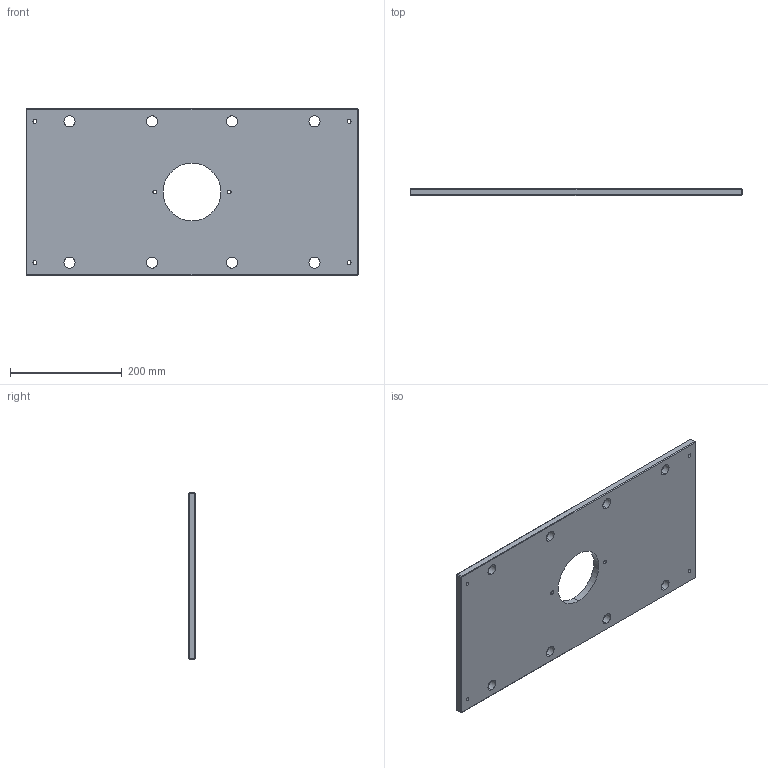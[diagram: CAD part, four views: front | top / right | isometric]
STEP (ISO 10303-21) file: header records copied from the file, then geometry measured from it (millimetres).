
FILE_DESCRIPTION (( 'STEP AP214' ), '1' );
FILE_NAME ('ME-0619-CH-1223.STEP', '2020-02-12T12:08:51', ( '' ), ( '' ), 'SwSTEP 2.0', 'SolidWorks 2018', '' );
FILE_SCHEMA (( 'AUTOMOTIVE_DESIGN' ));
Length unit declared in the file: inch
Products named in the file (1): ME-0619-CH-1223
Bounding box: 593.73 x 12.7 x 298.45 mm (x, y, z)
Volume: 2105848.8 mm3; surface area: 364180.5 mm2
Topology: 1 solids, 1 shells, 68 faces, 162 edges, 96 vertices
Faces by surface type: cylinder 30, plane 26, cone 12
Entity records: 2050 total; most frequent: DIRECTION 372, CARTESIAN_POINT 327, ORIENTED_EDGE 324, EDGE_CURVE 162, AXIS2_PLACEMENT_3D 141, EDGE_LOOP 98, VERTEX_POINT 96, LINE 90
